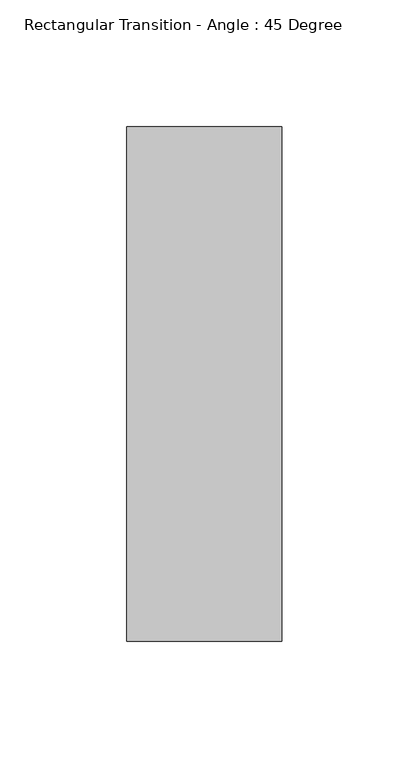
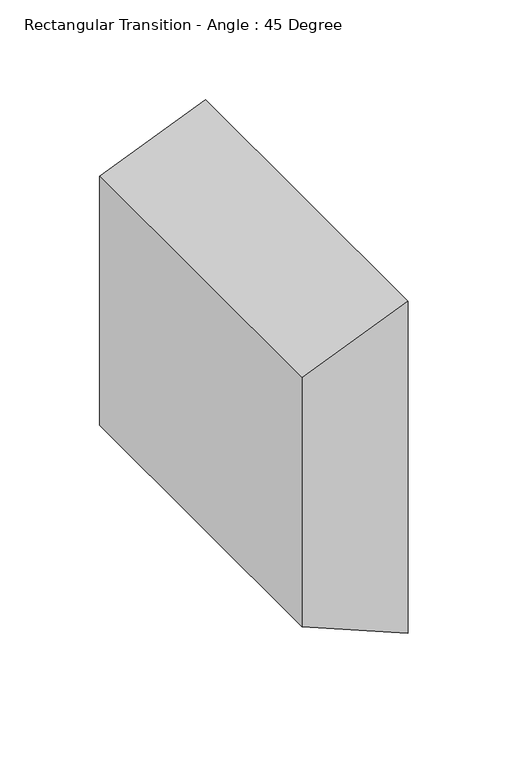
"""IFC4 building model written with IfcOpenShell, lengths in millimetres: duct fitting geometry, Rectangular Transition - Angle : 45 Degree."""

from ifc_helpers import new_model, si_unit, frame, origin, place, context, project, spatial, polyline, outline, extrude, source, transform, mapped, element, save


def rectangular_transition_angle_45_degree_f04e55b7(model_context):
    return source(origin(), model_context, "Body", "SweptSolid", [
        extrude(outline(polyline([(76.2, 0.0), (-76.2, 0.0), (-101.6, 61.3210245), (101.6, 61.3210245), (76.2, 0.0)])), frame((0.0, -101.6, 0.0), z_axis=(0.0, 1.0, 0.0), x_axis=(0.0, 0.0, 1.0)), (0.0, 0.0, 1.0), 203.2),
    ])


if __name__ == "__main__":
    model = new_model("IFC4")
    model_context = context("Model", 3, world=origin())
    ifc_project = project(units=[si_unit("LENGTHUNIT", "METRE", prefix="MILLI")], contexts=[model_context])
    site = spatial("IfcSite", under=ifc_project)
    building = spatial("IfcBuilding", under=site)
    placement = place(None, origin())
    rectangular_transition_angle_45_degree_shape = rectangular_transition_angle_45_degree_f04e55b7(model_context)
    element("IfcDuctFitting", 1, ObjectType="Rectangular Transition - Angle : 45 Degree", at=placement, inside=building, context=model_context, shape_type="MappedRepresentation", body=[
        mapped(rectangular_transition_angle_45_degree_shape, transform((0.0, 0.0, 0.0), x_axis=(1.0, 0.0, 0.0), y_axis=(0.0, 1.0, 0.0), z_axis=(0.0, 0.0, 1.0))),
    ])
    save(model, "model.ifc")
